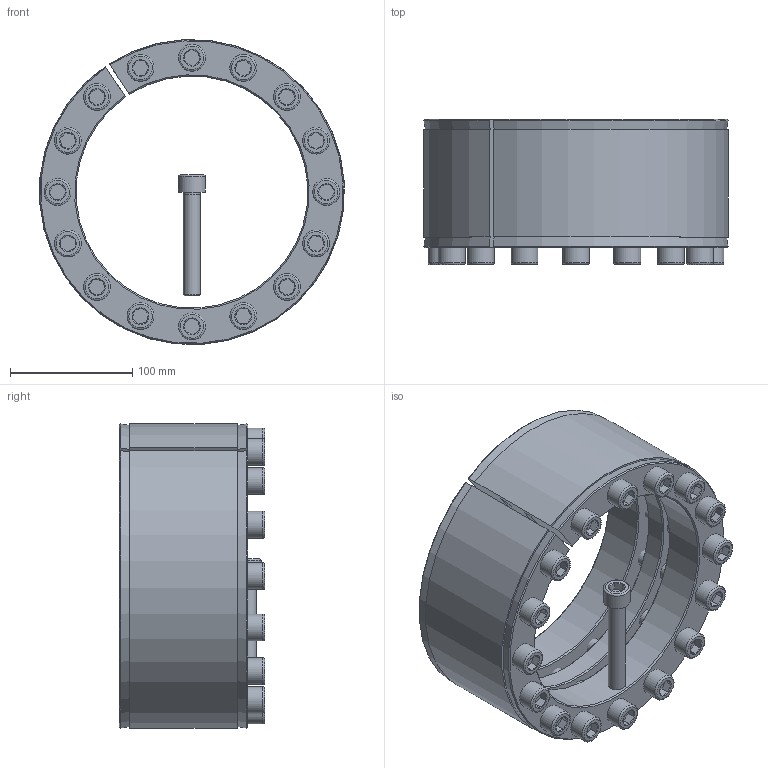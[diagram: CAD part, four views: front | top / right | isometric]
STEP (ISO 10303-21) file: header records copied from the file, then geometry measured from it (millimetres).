
FILE_DESCRIPTION( ( 'Unknown' ), '1' );
FILE_NAME( 'C:/Users/Frank/Eigene Daten/CAD/Solid Edge/KBK Karpstein/KBS Layout Baureihen/KBS 18/KBS - 190 x 250.stp', 'Unknown', ( 'Unknown' ), ( 'Unknown' ), 'XStep 1.0', 'Unknown', ' ' );
FILE_SCHEMA( ( 'automotive_design' ) );
Length unit declared in the file: millimetre
Products named in the file (3): Assem1; ISO EN DIN 4762 M14x85; KBS 18 - 190 x 250
Bounding box: 249.41 x 119 x 249.54 mm (x, y, z)
Volume: 3567562.1 mm3; surface area: 692951.5 mm2
Topology: 19 solids, 19 shells, 605 faces, 1361 edges, 798 vertices
Faces by surface type: plane 256, cylinder 172, cone 143, torus 34
Full cylindrical faces by diameter (mm): 11.835 x32, 12 x17, 14 x34, 15.5 x64, 22 x17
Entity records: 4538 total; most frequent: CARTESIAN_POINT 1145, DIRECTION 704, ORIENTED_EDGE 566, AXIS2_PLACEMENT_3D 334, EDGE_CURVE 283, EDGE_LOOP 238, CIRCLE 201, VERTEX_POINT 199
